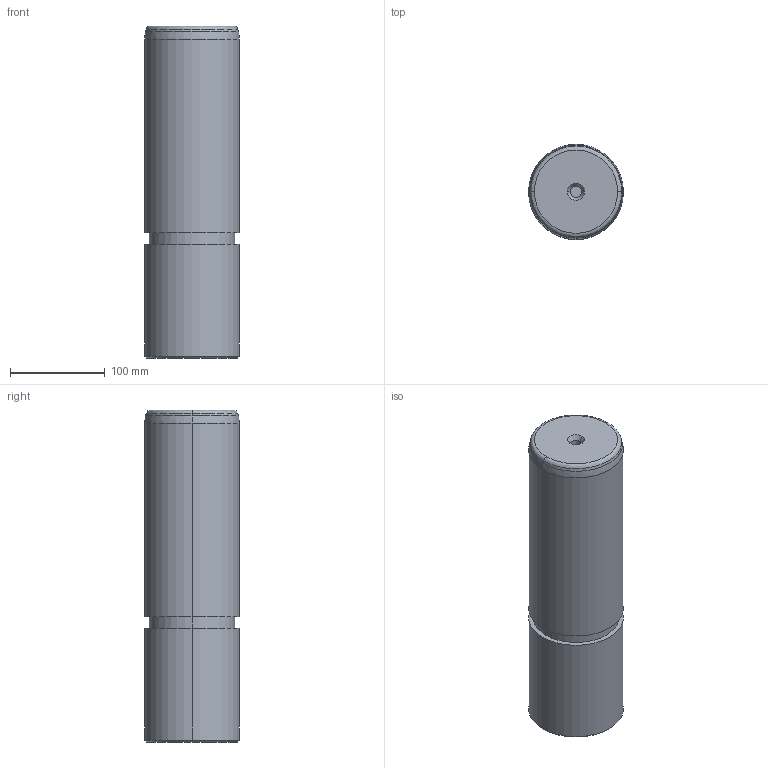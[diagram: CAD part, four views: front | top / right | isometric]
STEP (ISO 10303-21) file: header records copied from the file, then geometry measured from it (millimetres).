
FILE_DESCRIPTION((''),'2;1');
FILE_NAME('','2010-09-08T13:05:11+09:00',('misumi'),(''),'M/STEP i/f 1R2-14','CADmeister v5.1','');
FILE_SCHEMA(('AUTOMOTIVE_DESIGN'));
Length unit declared in the file: millimetre
Products named in the file (1): GPOB100-350
Bounding box: 100 x 100 x 350 mm (x, y, z)
Volume: 2721026 mm3; surface area: 128048.7 mm2
Topology: 1 solids, 1 shells, 23 faces, 44 edges, 26 vertices
Faces by surface type: cylinder 8, cone 6, plane 5, revolution 4
Entity records: 690 total; most frequent: DIRECTION 122, CARTESIAN_POINT 104, ORIENTED_EDGE 88, AXIS2_PLACEMENT_3D 52, EDGE_CURVE 44, CIRCLE 32, VERTEX_POINT 26, EDGE_LOOP 26
